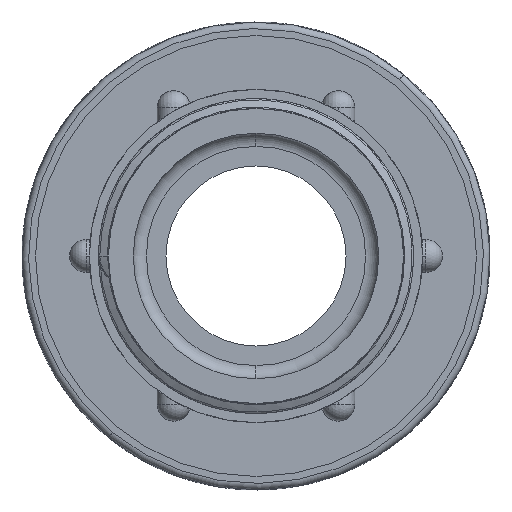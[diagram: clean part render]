
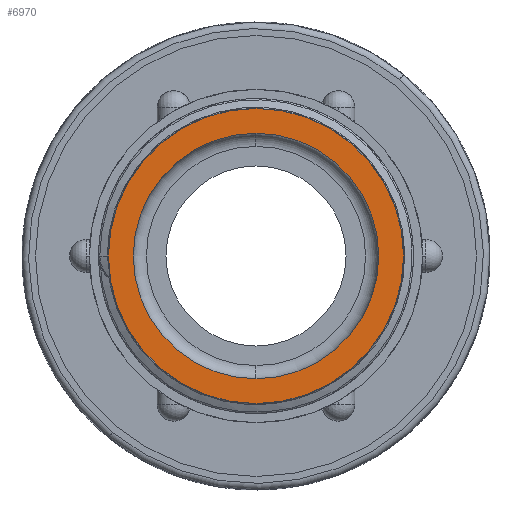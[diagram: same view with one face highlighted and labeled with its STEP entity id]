
A CAD part, left-side view. The second image highlights one B-rep face of the part: STEP entity #6970.
In plain terms, the highlighted planar face has unit normal (-1, 0, 0).
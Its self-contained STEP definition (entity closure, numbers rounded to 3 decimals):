
#6210 = CARTESIAN_POINT ( 'NONE',  ( 0., 0., 0. ) ) ;
#6211 = DIRECTION ( 'NONE',  ( -1., 0., 0. ) ) ;
#6212 = DIRECTION ( 'NONE',  ( 0., 0., 1. ) ) ;
#6490 = EDGE_CURVE ( 'NONE', #11444, #11467, #14462, .T. ) ;
#6579 = EDGE_CURVE ( 'NONE', #11467, #11444, #14515, .T. ) ;
#6970 = ADVANCED_FACE ( 'NONE', ( #16745, #16746 ), #16747, .F. ) ;
#8508 = CARTESIAN_POINT ( 'NONE',  ( 0., 0., 0. ) ) ;
#8509 = DIRECTION ( 'NONE',  ( -1., 0., 0. ) ) ;
#8510 = DIRECTION ( 'NONE',  ( 0., 0., 1. ) ) ;
#9179 = CARTESIAN_POINT ( 'NONE',  ( 0., 0., 0. ) ) ;
#9180 = DIRECTION ( 'NONE',  ( -1., 0., 0. ) ) ;
#9181 = DIRECTION ( 'NONE',  ( 0., 0., 1. ) ) ;
#10450 = EDGE_CURVE ( 'NONE', #11485, #11474, #15983, .T. ) ;
#11132 = EDGE_LOOP ( 'NONE', ( #11929, #11930 ) ) ;
#11134 = EDGE_LOOP ( 'NONE', ( #11927, #11928 ) ) ;
#11444 = VERTEX_POINT ( 'NONE', #12851 ) ;
#11467 = VERTEX_POINT ( 'NONE', #12874 ) ;
#11474 = VERTEX_POINT ( 'NONE', #12881 ) ;
#11485 = VERTEX_POINT ( 'NONE', #12892 ) ;
#11927 = ORIENTED_EDGE ( 'NONE', *, *, #13803, .F. ) ;
#11928 = ORIENTED_EDGE ( 'NONE', *, *, #10450, .F. ) ;
#11929 = ORIENTED_EDGE ( 'NONE', *, *, #6490, .T. ) ;
#11930 = ORIENTED_EDGE ( 'NONE', *, *, #6579, .T. ) ;
#12851 = CARTESIAN_POINT ( 'NONE',  ( 0., 0., 22.422 ) ) ;
#12874 = CARTESIAN_POINT ( 'NONE',  ( 0., 0., -22.422 ) ) ;
#12881 = CARTESIAN_POINT ( 'NONE',  ( 0., 0., 18.65 ) ) ;
#12892 = CARTESIAN_POINT ( 'NONE',  ( 0., 0., -18.65 ) ) ;
#13350 = CARTESIAN_POINT ( 'NONE',  ( 0., 0., 0. ) ) ;
#13351 = DIRECTION ( 'NONE',  ( -1., 0., 0. ) ) ;
#13352 = DIRECTION ( 'NONE',  ( 0., 0., 1. ) ) ;
#13803 = EDGE_CURVE ( 'NONE', #11474, #11485, #20345, .T. ) ;
#14462 = CIRCLE ( 'NONE', #14467, 22.422 ) ;
#14467 = AXIS2_PLACEMENT_3D ( 'NONE', #8508, #8509, #8510 ) ;
#14515 = CIRCLE ( 'NONE', #14517, 22.422 ) ;
#14517 = AXIS2_PLACEMENT_3D ( 'NONE', #9179, #9180, #9181 ) ;
#15492 = AXIS2_PLACEMENT_3D ( 'NONE', #16741, #16749, #16750 ) ;
#15983 = CIRCLE ( 'NONE', #15988, 18.65 ) ;
#15988 = AXIS2_PLACEMENT_3D ( 'NONE', #6210, #6211, #6212 ) ;
#16741 = CARTESIAN_POINT ( 'NONE',  ( 0., 18.65, 0. ) ) ;
#16745 = FACE_BOUND ( 'NONE', #11134, .T. ) ;
#16746 = FACE_OUTER_BOUND ( 'NONE', #11132, .T. ) ;
#16747 = PLANE ( 'NONE',  #15492 ) ;
#16749 = DIRECTION ( 'NONE',  ( 1., 0., 0. ) ) ;
#16750 = DIRECTION ( 'NONE',  ( 0., 0., -1. ) ) ;
#20345 = CIRCLE ( 'NONE', #20348, 18.65 ) ;
#20348 = AXIS2_PLACEMENT_3D ( 'NONE', #13350, #13351, #13352 ) ;
